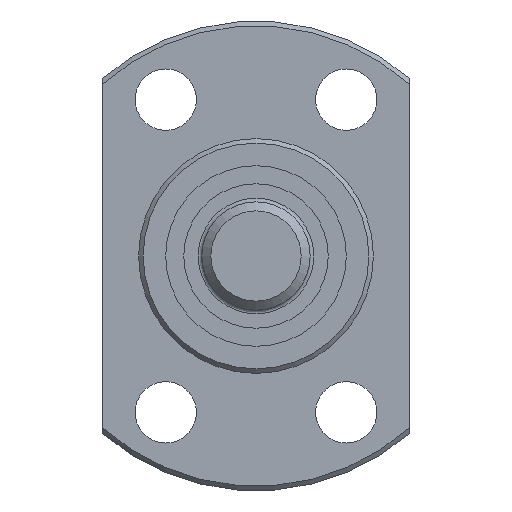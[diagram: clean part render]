
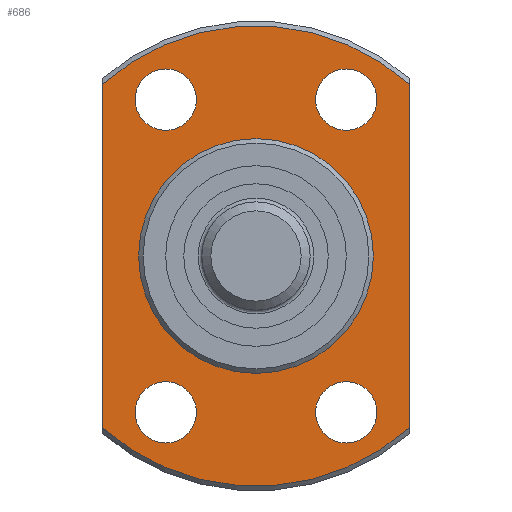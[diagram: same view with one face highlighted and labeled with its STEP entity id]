
A CAD part, left-side view. The second image highlights one B-rep face of the part: STEP entity #686.
In plain terms, the highlighted planar face has unit normal (-1, 0, 0).
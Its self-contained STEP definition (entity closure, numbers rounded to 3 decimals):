
#102=CIRCLE('',#797,12.75);
#103=CIRCLE('',#799,12.75);
#104=CIRCLE('',#801,6.);
#105=CIRCLE('',#802,1.7);
#106=CIRCLE('',#803,1.7);
#107=CIRCLE('',#804,1.7);
#108=CIRCLE('',#805,1.7);
#219=ORIENTED_EDGE('',*,*,#333,.T.);
#220=ORIENTED_EDGE('',*,*,#334,.T.);
#221=ORIENTED_EDGE('',*,*,#335,.T.);
#222=ORIENTED_EDGE('',*,*,#336,.T.);
#223=ORIENTED_EDGE('',*,*,#337,.T.);
#224=ORIENTED_EDGE('',*,*,#328,.F.);
#225=ORIENTED_EDGE('',*,*,#338,.T.);
#226=ORIENTED_EDGE('',*,*,#330,.F.);
#227=ORIENTED_EDGE('',*,*,#339,.T.);
#328=EDGE_CURVE('',#394,#395,#102,.T.);
#330=EDGE_CURVE('',#396,#397,#103,.T.);
#333=EDGE_CURVE('',#398,#398,#104,.T.);
#334=EDGE_CURVE('',#399,#399,#105,.T.);
#335=EDGE_CURVE('',#400,#400,#106,.T.);
#336=EDGE_CURVE('',#401,#401,#107,.T.);
#337=EDGE_CURVE('',#402,#402,#108,.T.);
#338=EDGE_CURVE('',#394,#397,#428,.T.);
#339=EDGE_CURVE('',#396,#395,#429,.T.);
#394=VERTEX_POINT('',#1208);
#395=VERTEX_POINT('',#1210);
#396=VERTEX_POINT('',#1217);
#397=VERTEX_POINT('',#1218);
#398=VERTEX_POINT('',#1229);
#399=VERTEX_POINT('',#1231);
#400=VERTEX_POINT('',#1233);
#401=VERTEX_POINT('',#1235);
#402=VERTEX_POINT('',#1237);
#428=LINE('',#1238,#446);
#429=LINE('',#1239,#447);
#446=VECTOR('',#1004,1000.);
#447=VECTOR('',#1005,1000.);
#504=EDGE_LOOP('',(#219));
#505=EDGE_LOOP('',(#220));
#506=EDGE_LOOP('',(#221));
#507=EDGE_LOOP('',(#222));
#508=EDGE_LOOP('',(#223));
#509=EDGE_LOOP('',(#224,#225,#226,#227));
#596=FACE_BOUND('',#504,.T.);
#597=FACE_BOUND('',#505,.T.);
#598=FACE_BOUND('',#506,.T.);
#599=FACE_BOUND('',#507,.T.);
#600=FACE_BOUND('',#508,.T.);
#601=FACE_BOUND('',#509,.T.);
#646=PLANE('',#800);
#686=ADVANCED_FACE('',(#596,#597,#598,#599,#600,#601),#646,.T.);
#797=AXIS2_PLACEMENT_3D('',#1209,#986,#987);
#799=AXIS2_PLACEMENT_3D('',#1216,#990,#991);
#800=AXIS2_PLACEMENT_3D('',#1227,#992,#993);
#801=AXIS2_PLACEMENT_3D('',#1228,#994,#995);
#802=AXIS2_PLACEMENT_3D('',#1230,#996,#997);
#803=AXIS2_PLACEMENT_3D('',#1232,#998,#999);
#804=AXIS2_PLACEMENT_3D('',#1234,#1000,#1001);
#805=AXIS2_PLACEMENT_3D('',#1236,#1002,#1003);
#986=DIRECTION('',(1.,0.,0.));
#987=DIRECTION('',(0.,0.,-1.));
#990=DIRECTION('',(1.,0.,0.));
#991=DIRECTION('',(0.,0.,-1.));
#992=DIRECTION('',(-1.,0.,0.));
#993=DIRECTION('',(0.,0.,1.));
#994=DIRECTION('',(1.,0.,0.));
#995=DIRECTION('',(0.,0.,-1.));
#996=DIRECTION('',(1.,0.,0.));
#997=DIRECTION('',(0.,0.,-1.));
#998=DIRECTION('',(1.,0.,0.));
#999=DIRECTION('',(0.,0.,-1.));
#1000=DIRECTION('',(1.,0.,0.));
#1001=DIRECTION('',(0.,0.,-1.));
#1002=DIRECTION('',(1.,0.,0.));
#1003=DIRECTION('',(0.,0.,-1.));
#1004=DIRECTION('',(0.,0.,-1.));
#1005=DIRECTION('',(0.,0.,1.));
#1208=CARTESIAN_POINT('',(11.,8.5,9.503));
#1209=CARTESIAN_POINT('',(11.,0.,0.));
#1210=CARTESIAN_POINT('',(11.,-8.5,9.503));
#1216=CARTESIAN_POINT('',(11.,0.,0.));
#1217=CARTESIAN_POINT('',(11.,-8.5,-9.503));
#1218=CARTESIAN_POINT('',(11.,8.5,-9.503));
#1227=CARTESIAN_POINT('',(11.,12.75,0.));
#1228=CARTESIAN_POINT('',(11.,0.,0.));
#1229=CARTESIAN_POINT('',(11.,0.,-6.));
#1230=CARTESIAN_POINT('',(11.,5.,8.66));
#1231=CARTESIAN_POINT('',(11.,5.,6.96));
#1232=CARTESIAN_POINT('',(11.,-5.,8.66));
#1233=CARTESIAN_POINT('',(11.,-5.,6.96));
#1234=CARTESIAN_POINT('',(11.,-5.,-8.66));
#1235=CARTESIAN_POINT('',(11.,-5.,-10.36));
#1236=CARTESIAN_POINT('',(11.,5.,-8.66));
#1237=CARTESIAN_POINT('',(11.,5.,-10.36));
#1238=CARTESIAN_POINT('',(11.,8.5,0.));
#1239=CARTESIAN_POINT('',(11.,-8.5,0.));
